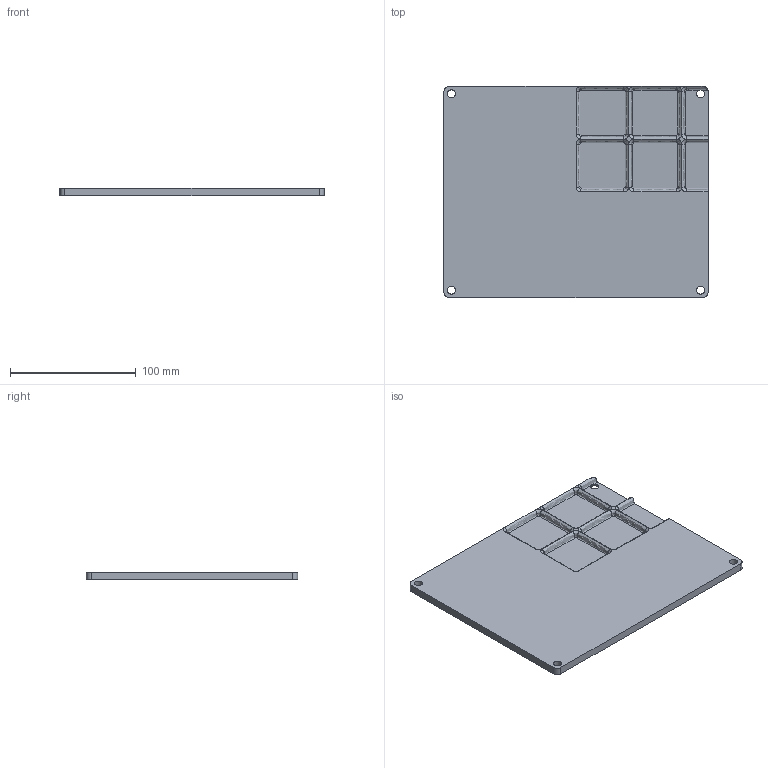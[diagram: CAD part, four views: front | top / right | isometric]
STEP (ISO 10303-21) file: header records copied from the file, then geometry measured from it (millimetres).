
FILE_DESCRIPTION(('Open CASCADE Model'),'2;1');
FILE_NAME('Open CASCADE Shape Model','2026-11-03T15:27:26',('Author'),( 'Open CASCADE'),'Open CASCADE STEP processor 8.0','build123d', 'Unknown');
FILE_SCHEMA(('AUTOMOTIVE_DESIGN { 1 0 10303 214 1 1 1 1 }'));
Length unit declared in the file: millimetre
Products named in the file (1): COMPOUND
Bounding box: 210 x 168 x 6.25 mm (x, y, z)
Volume: 184851.2 mm3; surface area: 77379.6 mm2
Topology: 1 solids, 1 shells, 66 faces, 164 edges, 99 vertices
Faces by surface type: bspline 42, plane 16, cylinder 8
Full cylindrical faces by diameter (mm): 6.4 x4
Entity records: 9654 total; most frequent: CARTESIAN_POINT 7004, ORIENTED_EDGE 328, PCURVE 328, DEFINITIONAL_REPRESENTATION 328, DIRECTION 298, LINE 214, VECTOR 214, B_SPLINE_CURVE_WITH_KNOTS 204
